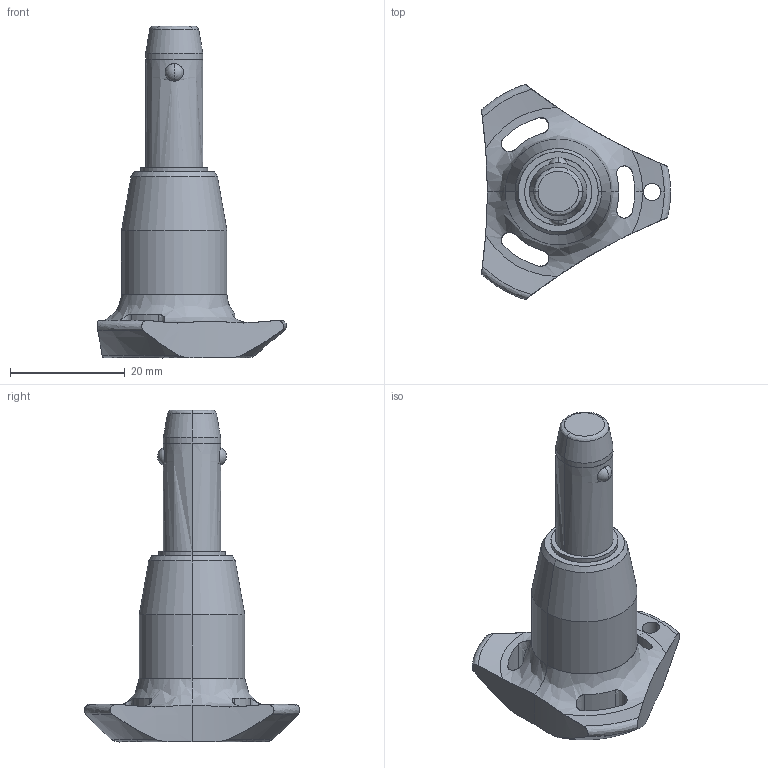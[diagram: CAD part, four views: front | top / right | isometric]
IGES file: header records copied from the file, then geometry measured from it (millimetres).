
Start section: SolidWorks IGES file using analytic representation for surfaces
Global section: file name: C:\Users\ianosborn\Desktop\QR1726_v2\QR1726_v2_20251115_IGES\QR1726.M10-015-T.igs; native system: SolidWorks 2019; preprocessor: SolidWorks 2019; author: IanOsborn; date: 251113.111106; units: millimetre
Bounding box: 33 x 37.51 x 57.9 mm (x, y, z)
Surface area: 4564.7 mm2 (no closed solid volume)
Topology: 0 solids, 0 shells, 68 faces, 1352 edges, 1345 vertices
Faces by surface type: revolution 52, bspline 16
